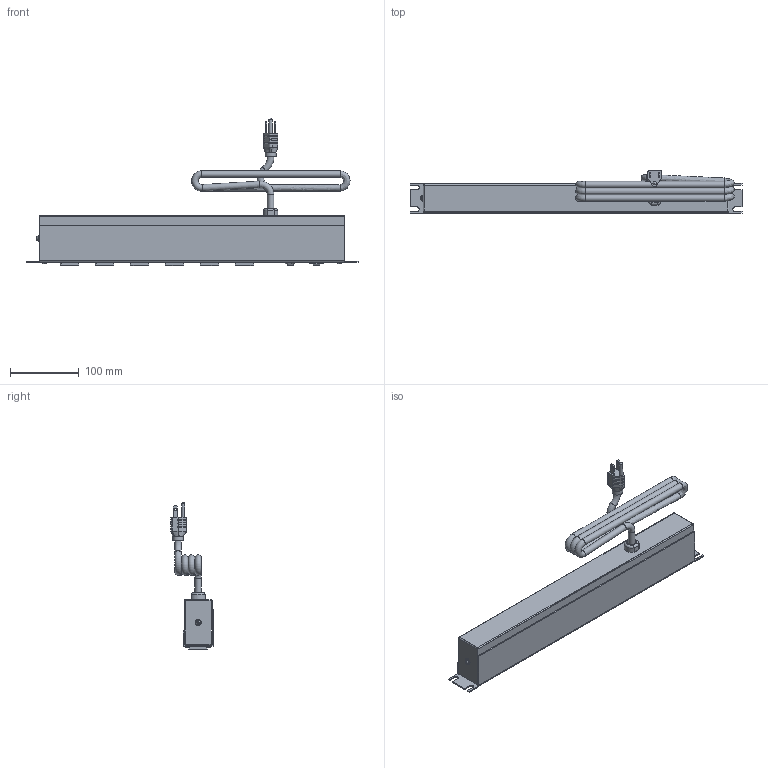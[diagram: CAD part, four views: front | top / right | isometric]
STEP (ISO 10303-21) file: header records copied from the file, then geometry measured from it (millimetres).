
FILE_DESCRIPTION((''),'2;1');
FILE_NAME('E:\Dutton\Manufacturing\drawings\Updated 2009\POWER BARS\1582 RA series\STEP''s\1582H6A1BKRA.stp','2010-01-11T06:50:25',('tfoster'),(''),'Autodesk Inventor 2010','Autodesk Inventor 2010','');
FILE_SCHEMA(('AUTOMOTIVE_DESIGN { 1 0 10303 214 1 1 1 1 }'));
Products named in the file (12): 1582H6A1BKRA; 1582 Front plate; 1582 Back Plate; #6 - 0.375 Type A screw; toothwasher; round head 1-way 8-32 x 0.5 screw; Reset Switch; Power Switch Assembly; Power Switch; Power Switch pt; Cored 2; Receptacle
Assembly tree (19 placements, depth 3):
  1582H6A1BKRA
    1582 Front plate
    1582 Back Plate
    #6 - 0.375 Type A screw  x4
    toothwasher
    round head 1-way 8-32 x 0.5 screw
    Reset Switch
    Power Switch Assembly
      Power Switch
      Power Switch pt
    Cored 2
    Receptacle  x6
Bounding box: 482.6 x 61.48 x 214.29 mm (x, y, z)
Volume: 347883.1 mm3; surface area: 301101.1 mm2
Topology: 18 solids, 18 shells, 928 faces, 2707 edges, 1817 vertices
Faces by surface type: plane 602, cylinder 171, bspline 87, sphere 30, cone 23, torus 15
Full cylindrical faces by diameter (mm): 1 x2, 1.803 x3, 1.905 x2, 2.286 x1, 2.997 x4, 3 x2, 4.3 x1, 4.775 x1, 4.801 x1, 5.563 x4, 7.849 x1, 9.5 x5, 11 x1, 15.621 x1
Entity records: 23047 total; most frequent: CARTESIAN_POINT 7898, ORIENTED_EDGE 3270, DIRECTION 2738, EDGE_CURVE 1635, VERTEX_POINT 1148, VECTOR 1050, LINE 1050, AXIS2_PLACEMENT_3D 844
